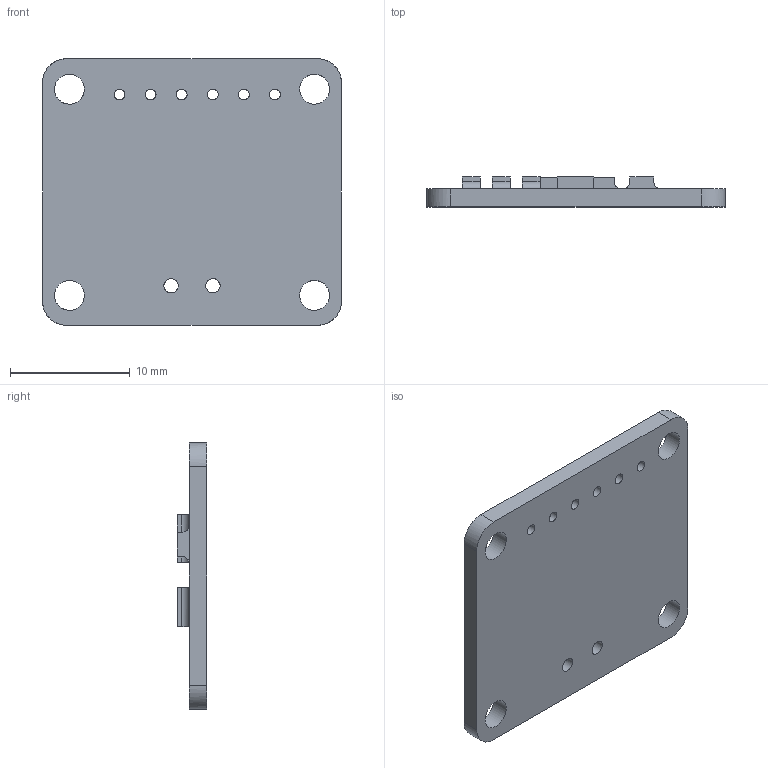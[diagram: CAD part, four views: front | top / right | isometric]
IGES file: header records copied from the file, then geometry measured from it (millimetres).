
Global section: file name: CJMCU-219 INA219 v13; native system: unknown; preprocessor: unknown; author: hartvik; organization: unknown; date: 20180313.175733; units: millimetre
Bounding box: 25 x 2.5 x 22.3 mm (x, y, z)
Volume: 835.8 mm3; surface area: 1338 mm2
Topology: 1 solids, 1 shells, 69 faces, 180 edges, 120 vertices
Faces by surface type: bspline 69
